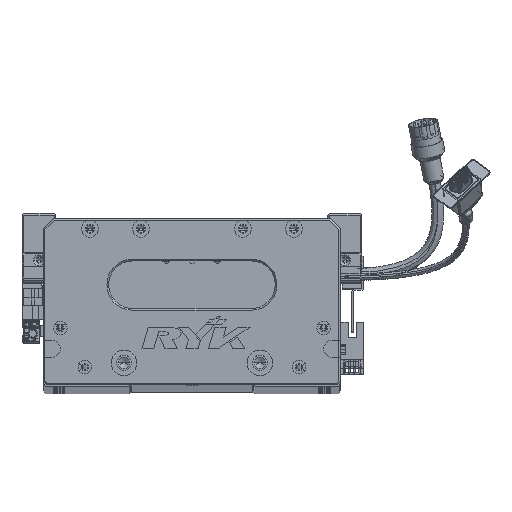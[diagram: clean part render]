
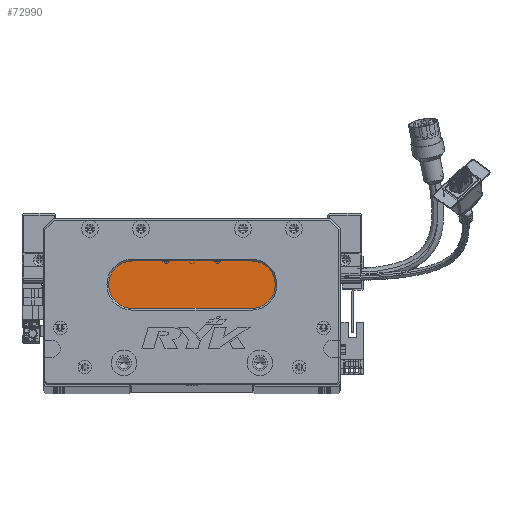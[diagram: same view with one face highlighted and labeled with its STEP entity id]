
A CAD part, top view. The second image highlights one B-rep face of the part: STEP entity #72990.
In plain terms, the highlighted planar face has unit normal (0, 0, 1) as drawn and (0, 0, -1) by its records, which use the part's own axes.
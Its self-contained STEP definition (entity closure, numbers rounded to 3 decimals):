
#3097 = CARTESIAN_POINT ( 'NONE',  ( 122.5, 45., 18. ) ) ;
#5343 = DIRECTION ( 'NONE',  ( 0., 0., -1. ) ) ;
#8200 = DIRECTION ( 'NONE',  ( 0., 0., -1. ) ) ;
#12092 = ORIENTED_EDGE ( 'NONE', *, *, #71360, .T. ) ;
#13572 = CARTESIAN_POINT ( 'NONE',  ( 52.5, 73., 18. ) ) ;
#16890 = CARTESIAN_POINT ( 'NONE',  ( 52.5, 59., 18. ) ) ;
#18641 = EDGE_CURVE ( 'NONE', #120016, #92710, #49565, .T. ) ;
#20279 = EDGE_CURVE ( 'NONE', #100313, #81414, #21163, .T. ) ;
#21163 = LINE ( 'NONE', #88165, #46274 ) ;
#26329 = CARTESIAN_POINT ( 'NONE',  ( 122.5, 45., 18. ) ) ;
#27662 = VERTEX_POINT ( 'NONE', #41090 ) ;
#35521 = CIRCLE ( 'NONE', #127265, 14. ) ;
#39807 = ORIENTED_EDGE ( 'NONE', *, *, #20279, .T. ) ;
#41090 = CARTESIAN_POINT ( 'NONE',  ( 38.5, 59., 18. ) ) ;
#44294 = DIRECTION ( 'NONE',  ( 0., 0., -1. ) ) ;
#46274 = VECTOR ( 'NONE', #48311, 1000. ) ;
#47583 = DIRECTION ( 'NONE',  ( -1., 0., 0. ) ) ;
#48311 = DIRECTION ( 'NONE',  ( 1., 0., 0. ) ) ;
#49565 = LINE ( 'NONE', #26329, #94982 ) ;
#51470 = EDGE_CURVE ( 'NONE', #27662, #100313, #35521, .T. ) ;
#57342 = AXIS2_PLACEMENT_3D ( 'NONE', #89632, #79589, #118413 ) ;
#64872 = AXIS2_PLACEMENT_3D ( 'NONE', #115500, #5343, #84557 ) ;
#65075 = CIRCLE ( 'NONE', #100888, 14. ) ;
#69933 = PLANE ( 'NONE',  #57342 ) ;
#71360 = EDGE_CURVE ( 'NONE', #92710, #27662, #65075, .T. ) ;
#72990 = ADVANCED_FACE ( 'NONE', ( #90591 ), #69933, .T. ) ;
#74026 = ORIENTED_EDGE ( 'NONE', *, *, #51470, .T. ) ;
#78111 = EDGE_CURVE ( 'NONE', #81414, #120016, #128573, .T. ) ;
#79544 = EDGE_LOOP ( 'NONE', ( #103750, #90880, #12092, #74026, #39807 ) ) ;
#79589 = DIRECTION ( 'NONE',  ( 0., 0., -1. ) ) ;
#81414 = VERTEX_POINT ( 'NONE', #109210 ) ;
#84557 = DIRECTION ( 'NONE',  ( -1., 0., 0. ) ) ;
#88165 = CARTESIAN_POINT ( 'NONE',  ( 122.5, 73., 18. ) ) ;
#89632 = CARTESIAN_POINT ( 'NONE',  ( 122.5, 59., 18. ) ) ;
#90591 = FACE_OUTER_BOUND ( 'NONE', #79544, .T. ) ;
#90880 = ORIENTED_EDGE ( 'NONE', *, *, #18641, .T. ) ;
#92710 = VERTEX_POINT ( 'NONE', #107141 ) ;
#94982 = VECTOR ( 'NONE', #104766, 1000. ) ;
#100313 = VERTEX_POINT ( 'NONE', #13572 ) ;
#100888 = AXIS2_PLACEMENT_3D ( 'NONE', #16890, #8200, #47583 ) ;
#103750 = ORIENTED_EDGE ( 'NONE', *, *, #78111, .T. ) ;
#104766 = DIRECTION ( 'NONE',  ( -1., 0., 0. ) ) ;
#107141 = CARTESIAN_POINT ( 'NONE',  ( 52.5, 45., 18. ) ) ;
#109210 = CARTESIAN_POINT ( 'NONE',  ( 122.5, 73., 18. ) ) ;
#113009 = CARTESIAN_POINT ( 'NONE',  ( 52.5, 59., 18. ) ) ;
#115500 = CARTESIAN_POINT ( 'NONE',  ( 122.5, 59., 18. ) ) ;
#118413 = DIRECTION ( 'NONE',  ( -1., 0., 0. ) ) ;
#120016 = VERTEX_POINT ( 'NONE', #3097 ) ;
#123062 = DIRECTION ( 'NONE',  ( -1., 0., 0. ) ) ;
#127265 = AXIS2_PLACEMENT_3D ( 'NONE', #113009, #44294, #123062 ) ;
#128573 = CIRCLE ( 'NONE', #64872, 14. ) ;
